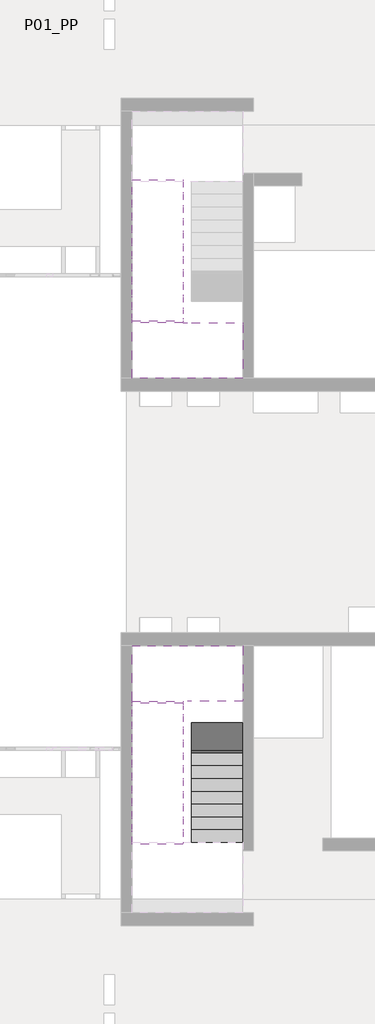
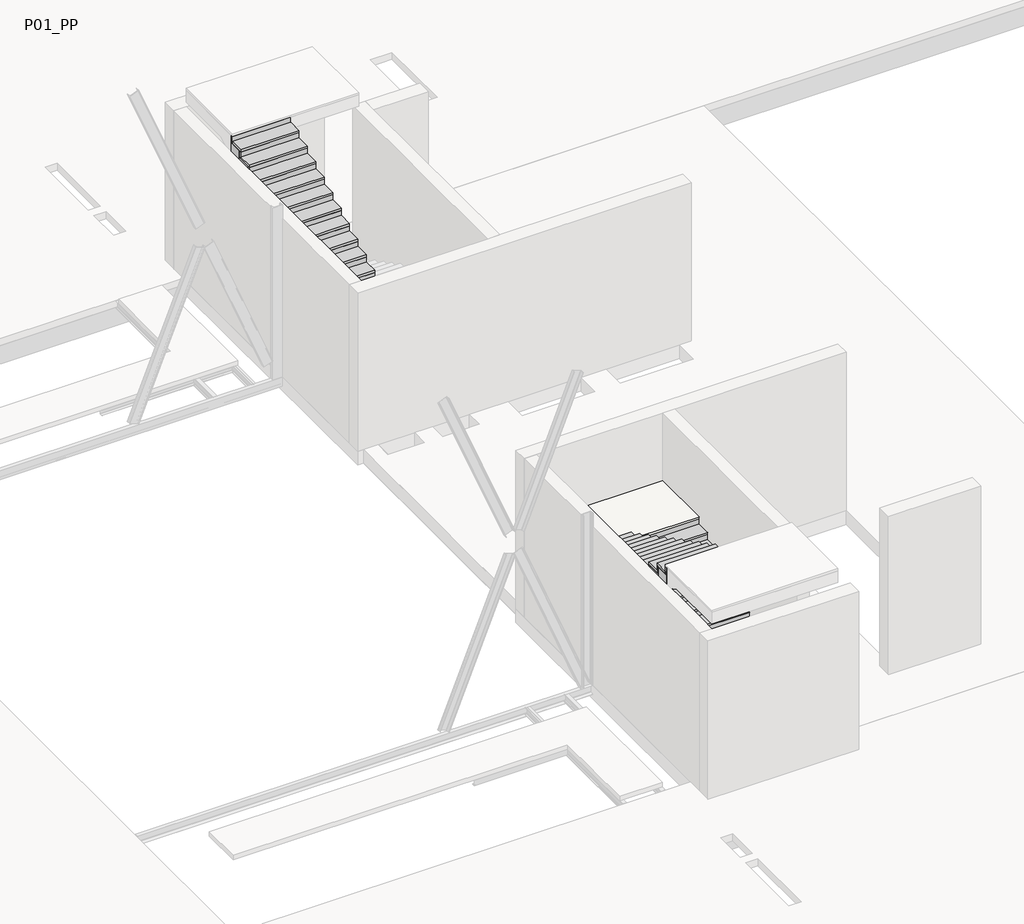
# One storey, part 7 of 8: 3 stair flights, 2 slabs.
"""IFC4 building model written with IfcOpenShell, lengths in millimetres."""

from ifc_helpers import new_model, si_unit, frame, origin, place, context, project, spatial, polyline, outline, extrude, faceted_brep, element, save

model = new_model("IFC4")

# Units and contexts
model_context = context("Model", 3, world=origin())
ifc_project = project(units=[si_unit("LENGTHUNIT", "METRE", prefix="MILLI")], contexts=[model_context])

# Site, building, storey
site = spatial("IfcSite", under=ifc_project)
building = spatial("IfcBuilding", under=site)
storey = spatial("IfcBuildingStorey", under=building, Name="P01_PP", Elevation=11160.0)

# Slabs
placement = place(None, origin())
element("IfcSlab", 1, ObjectType="250mm_Thickness", at=placement, inside=storey, context=model_context, shape_type="SolidModel", body=[
    faceted_brep([(-10790.2146087, 8864.8932827, 13085.0), (-11990.2146087, 8864.8932827, 13085.0), (-11990.2146087, 8914.8932827, 13085.0), (-12190.3216429, 8914.8932827, 13085.0), (-12190.3216429, 8964.8932827, 13085.0), (-13390.3216429, 8964.8932827, 13085.0), (-13390.3216429, 8914.8932827, 13085.0), (-13390.3216429, 7614.8960687, 13085.0), (-10790.2146087, 7614.8960687, 13085.0), (-10790.2146087, 8503.6909176, 13085.0), (-10790.2146087, 8864.8932827, 12928.75), (-10790.2146087, 8864.8932827, 12646.8737682), (-11990.2146087, 8864.8932827, 12646.8737682), (-11990.2146087, 8864.8932827, 12835.0), (-11990.2146087, 8864.8932827, 12928.75), (-11990.2146087, 8914.8932827, 12835.0), (-12190.3216429, 8914.8932827, 12835.0), (-12190.3216429, 8964.8932827, 12835.0), (-13390.3216429, 8964.8932827, 12835.0), (-13390.3216429, 8914.8932827, 12835.0), (-13390.3216429, 7614.8960687, 12835.0), (-10790.2146087, 7614.8960687, 12835.0), (-10790.2146087, 8503.6909176, 12835.0), (-11990.2146087, 8503.6909176, 12835.0)], [[[0, 1, 2, 3, 4, 5, 6, 7, 8, 9]], [[1, 0, 10, 11, 12, 13, 14]], [[2, 1, 14, 13, 15]], [[3, 2, 15, 16]], [[4, 3, 16, 17]], [[5, 4, 17, 18]], [[6, 5, 18, 19]], [[7, 6, 19, 20]], [[8, 7, 20, 21]], [[11, 10, 0, 9, 8, 21, 22]], [[23, 22, 21, 20, 19, 18, 17, 16, 15, 13]], [[22, 23, 12, 11]], [[23, 13, 12]]]),
    extrude(outline(polyline([(-10790.2146087, 8914.8932827), (-10790.2146087, 7614.8960687), (-13390.3216429, 7614.8960687), (-13390.3216429, 8914.8932827), (-12190.3216429, 8914.8932827), (-11990.2146087, 8914.8932827), (-10790.2146087, 8914.8932827)])), frame((0.0, 0.0, 13085.0), z_axis=(0.0, 0.0, 1.0), x_axis=(1.0, 0.0, 0.0)), (0.0, 0.0, 1.0), 50.0),
])
element("IfcSlab", 2, ObjectType="250mm_Thickness", at=placement, inside=storey, context=model_context, shape_type="SolidModel", body=[
    faceted_brep([(-11990.2146087, 64.8988538, 13085.0), (-11990.2146087, 114.8988538, 13085.0), (-10790.2146087, 114.8988538, 13085.0), (-10790.2146087, 476.1012189, 13085.0), (-10790.2146087, 1364.8960678, 13085.0), (-13390.3216429, 1364.8960678, 13085.0), (-13390.3216429, 64.8988538, 13085.0), (-13390.3216429, 14.8988538, 13085.0), (-12190.3216429, 14.8988538, 13085.0), (-12190.3216429, 64.8988538, 13085.0), (-11990.2146087, 114.8988538, 12928.75), (-11990.2146087, 114.8988538, 12835.0), (-11990.2146087, 114.8988538, 12646.8737682), (-10790.2146087, 114.8988538, 12646.8737682), (-10790.2146087, 114.8988538, 12928.75), (-12190.3216429, 64.8988538, 12835.0), (-11990.2146087, 64.8988538, 12835.0), (-13390.3216429, 14.8988538, 12835.0), (-12190.3216429, 14.8988538, 12835.0), (-13390.3216429, 64.8988538, 12835.0), (-13390.3216429, 1364.8960678, 12835.0), (-10790.2146087, 1364.8960678, 12835.0), (-10790.2146087, 476.1012189, 12835.0), (-11990.2146087, 476.1012189, 12835.0)], [[[0, 1, 2, 3, 4, 5, 6, 7, 8, 9]], [[2, 1, 10, 11, 12, 13, 14]], [[0, 9, 15, 16]], [[8, 7, 17, 18]], [[7, 6, 19, 17]], [[6, 5, 20, 19]], [[5, 4, 21, 20]], [[2, 14, 13, 22, 21, 4, 3]], [[22, 23, 11, 16, 15, 18, 17, 19, 20, 21]], [[23, 22, 13, 12]], [[11, 23, 12]], [[1, 0, 16, 11, 10]], [[9, 8, 18, 15]]]),
    extrude(outline(polyline([(-11990.2146087, 64.8988538), (-12190.3216429, 64.8988538), (-13390.3216429, 64.8988538), (-13390.3216429, 1364.8960678), (-10790.2146087, 1364.8960678), (-10790.2146087, 64.8988538), (-11990.2146087, 64.8988538)])), frame((0.0, 0.0, 13085.0), z_axis=(0.0, 0.0, 1.0), x_axis=(1.0, 0.0, 0.0)), (0.0, 0.0, 1.0), 50.0),
])

# Stair flights
element("IfcStairFlight", 3, ObjectType="250mm Depth", at=placement, inside=storey, context=model_context, shape_type="SolidModel", body=[
    faceted_brep([(-13390.3216429, 8964.8932827, 13241.25), (-12190.3216429, 8964.8932827, 13241.25), (-12190.3216429, 9026.0956478, 13241.25), (-12190.3216429, 9264.8932827, 13241.25), (-13390.3216429, 9264.8932827, 13241.25), (-13390.3216429, 9026.0956478, 13241.25), (-13390.3216429, 9264.8932827, 12959.3737682), (-13390.3216429, 9026.0956478, 12835.0), (-13390.3216429, 8964.8932827, 12835.0), (-13390.3216429, 8964.8932827, 13085.0), (-12190.3216429, 8964.8932827, 12835.0), (-12190.3216429, 8964.8932827, 13085.0), (-12190.3216429, 9026.0956478, 12835.0), (-12190.3216429, 9264.8932827, 12959.3737682), (-13390.3216429, 9564.8932827, 13397.5), (-13390.3216429, 9264.8932827, 13397.5), (-12190.3216429, 9264.8932827, 13397.5), (-12190.3216429, 9564.8932827, 13397.5), (-13390.3216429, 9564.8932827, 13115.6237682), (-12190.3216429, 9564.8932827, 13115.6237682), (-13390.3216429, 9864.8932827, 13553.75), (-13390.3216429, 9564.8932827, 13553.75), (-12190.3216429, 9564.8932827, 13553.75), (-12190.3216429, 9864.8932827, 13553.75), (-13390.3216429, 9864.8932827, 13271.8737682), (-12190.3216429, 9864.8932827, 13271.8737682), (-13390.3216429, 10164.8932827, 13710.0), (-13390.3216429, 9864.8932827, 13710.0), (-12190.3216429, 9864.8932827, 13710.0), (-12190.3216429, 10164.8932827, 13710.0), (-13390.3216429, 10164.8932827, 13428.1237682), (-12190.3216429, 10164.8932827, 13428.1237682), (-13390.3216429, 10464.8932827, 13866.25), (-13390.3216429, 10164.8932827, 13866.25), (-12190.3216429, 10164.8932827, 13866.25), (-12190.3216429, 10464.8932827, 13866.25), (-13390.3216429, 10464.8932827, 13584.3737682), (-12190.3216429, 10464.8932827, 13584.3737682), (-13390.3216429, 10764.8932827, 14022.5), (-13390.3216429, 10464.8932827, 14022.5), (-12190.3216429, 10464.8932827, 14022.5), (-12190.3216429, 10764.8932827, 14022.5), (-13390.3216429, 10764.8932827, 13740.6237682), (-12190.3216429, 10764.8932827, 13740.6237682), (-13390.3216429, 11064.8932827, 14178.75), (-13390.3216429, 10764.8932827, 14178.75), (-12190.3216429, 10764.8932827, 14178.75), (-12190.3216429, 11064.8932827, 14178.75), (-13390.3216429, 11064.8932827, 13896.8737682), (-12190.3216429, 11064.8932827, 13896.8737682), (-13390.3216429, 11364.8932827, 14335.0), (-13390.3216429, 11064.8932827, 14335.0), (-12190.3216429, 11064.8932827, 14335.0), (-12190.3216429, 11364.8932827, 14335.0), (-13390.3216429, 11364.8932827, 14053.1237682), (-12190.3216429, 11364.8932827, 14053.1237682), (-13390.3216429, 11664.8932827, 14491.25), (-13390.3216429, 11364.8932827, 14491.25), (-12190.3216429, 11364.8932827, 14491.25), (-12190.3216429, 11664.8932827, 14491.25), (-13390.3216429, 11664.8932827, 14209.3737682), (-12190.3216429, 11664.8932827, 14209.3737682), (-13390.3216429, 11964.8932827, 14647.5), (-13390.3216429, 11664.8932827, 14647.5), (-12190.3216429, 11664.8932827, 14647.5), (-12190.3216429, 11964.8932827, 14647.5), (-13390.3216429, 11964.8932827, 14365.6237682), (-12190.3216429, 11964.8932827, 14365.6237682), (-13390.3216429, 11964.8932827, 14803.75), (-12190.3216429, 11964.8932827, 14803.75), (-12190.3216429, 12214.8932827, 14803.75), (-12190.3216429, 12264.8932827, 14803.75), (-13390.3216429, 12264.8932827, 14803.75), (-13390.3216429, 12214.8932827, 14803.75), (-13390.3216429, 12264.8932827, 14521.8737682), (-13390.3216429, 12214.8932827, 14495.8321015), (-12190.3216429, 12264.8932827, 14521.8737682), (-12190.3216429, 12264.8932827, 14710.0)], [[[0, 1, 2, 3, 4, 5]], [[4, 6, 7, 8, 9, 0, 5]], [[1, 0, 9, 8, 10, 11]], [[1, 11, 10, 12, 13, 3, 2]], [[14, 15, 16, 17]], [[15, 14, 18, 6, 4]], [[16, 15, 4, 3]], [[17, 16, 3, 13, 19]], [[20, 21, 22, 23]], [[21, 20, 24, 18, 14]], [[22, 21, 14, 17]], [[23, 22, 17, 19, 25]], [[26, 27, 28, 29]], [[27, 26, 30, 24, 20]], [[28, 27, 20, 23]], [[29, 28, 23, 25, 31]], [[32, 33, 34, 35]], [[33, 32, 36, 30, 26]], [[34, 33, 26, 29]], [[35, 34, 29, 31, 37]], [[38, 39, 40, 41]], [[39, 38, 42, 36, 32]], [[40, 39, 32, 35]], [[41, 40, 35, 37, 43]], [[44, 45, 46, 47]], [[45, 44, 48, 42, 38]], [[46, 45, 38, 41]], [[47, 46, 41, 43, 49]], [[50, 51, 52, 53]], [[51, 50, 54, 48, 44]], [[52, 51, 44, 47]], [[53, 52, 47, 49, 55]], [[56, 57, 58, 59]], [[57, 56, 60, 54, 50]], [[58, 57, 50, 53]], [[59, 58, 53, 55, 61]], [[62, 63, 64, 65]], [[63, 62, 66, 60, 56]], [[64, 63, 56, 59]], [[65, 64, 59, 61, 67]], [[68, 69, 70, 71, 72, 73]], [[62, 68, 73, 72, 74, 75, 66]], [[69, 68, 62, 65]], [[69, 65, 67, 76, 77, 71, 70]], [[72, 71, 77, 76, 74]], [[12, 7, 6, 18, 24, 30, 36, 42, 48, 54, 60, 66, 75, 74, 76, 67, 61, 55, 49, 43, 37, 31, 25, 19, 13]], [[7, 12, 10, 8]]]),
    extrude(outline(polyline([(-12190.3216429, 8964.8932827), (-12190.3216429, 8914.8932827), (-13390.3216429, 8914.8932827), (-13390.3216429, 8964.8932827), (-12190.3216429, 8964.8932827)])), frame((0.0, 0.0, 13085.0), z_axis=(0.0, 0.0, 1.0), x_axis=(1.0, 0.0, 0.0)), (0.0, 0.0, 1.0), 156.25),
    extrude(outline(polyline([(-13390.3216429, 9214.8932827), (-12190.3216429, 9214.8932827), (-12190.3216429, 8914.8932827), (-13390.3216429, 8914.8932827), (-13390.3216429, 9214.8932827)])), frame((0.0, 0.0, 13241.25), z_axis=(0.0, 0.0, 1.0), x_axis=(1.0, 0.0, 0.0)), (0.0, 0.0, 1.0), 50.0),
    extrude(outline(polyline([(-12190.3216429, 9264.8932827), (-12190.3216429, 9214.8932827), (-13390.3216429, 9214.8932827), (-13390.3216429, 9264.8932827), (-12190.3216429, 9264.8932827)])), frame((0.0, 0.0, 13241.25), z_axis=(0.0, 0.0, 1.0), x_axis=(1.0, 0.0, 0.0)), (0.0, 0.0, 1.0), 156.25),
    extrude(outline(polyline([(-13390.3216429, 9514.8932827), (-12190.3216429, 9514.8932827), (-12190.3216429, 9214.8932827), (-13390.3216429, 9214.8932827), (-13390.3216429, 9514.8932827)])), frame((0.0, 0.0, 13397.5), z_axis=(0.0, 0.0, 1.0), x_axis=(1.0, 0.0, 0.0)), (0.0, 0.0, 1.0), 50.0),
    extrude(outline(polyline([(-12190.3216429, 9564.8932827), (-12190.3216429, 9514.8932827), (-13390.3216429, 9514.8932827), (-13390.3216429, 9564.8932827), (-12190.3216429, 9564.8932827)])), frame((0.0, 0.0, 13397.5), z_axis=(0.0, 0.0, 1.0), x_axis=(1.0, 0.0, 0.0)), (0.0, 0.0, 1.0), 156.25),
    extrude(outline(polyline([(-13390.3216429, 9814.8932827), (-12190.3216429, 9814.8932827), (-12190.3216429, 9514.8932827), (-13390.3216429, 9514.8932827), (-13390.3216429, 9814.8932827)])), frame((0.0, 0.0, 13553.75), z_axis=(0.0, 0.0, 1.0), x_axis=(1.0, 0.0, 0.0)), (0.0, 0.0, 1.0), 50.0),
    extrude(outline(polyline([(-12190.3216429, 9864.8932827), (-12190.3216429, 9814.8932827), (-13390.3216429, 9814.8932827), (-13390.3216429, 9864.8932827), (-12190.3216429, 9864.8932827)])), frame((0.0, 0.0, 13553.75), z_axis=(0.0, 0.0, 1.0), x_axis=(1.0, 0.0, 0.0)), (0.0, 0.0, 1.0), 156.25),
    extrude(outline(polyline([(-13390.3216429, 10114.8932827), (-12190.3216429, 10114.8932827), (-12190.3216429, 9814.8932827), (-13390.3216429, 9814.8932827), (-13390.3216429, 10114.8932827)])), frame((0.0, 0.0, 13710.0), z_axis=(0.0, 0.0, 1.0), x_axis=(1.0, 0.0, 0.0)), (0.0, 0.0, 1.0), 50.0),
    extrude(outline(polyline([(-12190.3216429, 10164.8932827), (-12190.3216429, 10114.8932827), (-13390.3216429, 10114.8932827), (-13390.3216429, 10164.8932827), (-12190.3216429, 10164.8932827)])), frame((0.0, 0.0, 13710.0), z_axis=(0.0, 0.0, 1.0), x_axis=(1.0, 0.0, 0.0)), (0.0, 0.0, 1.0), 156.25),
    extrude(outline(polyline([(-13390.3216429, 10414.8932827), (-12190.3216429, 10414.8932827), (-12190.3216429, 10114.8932827), (-13390.3216429, 10114.8932827), (-13390.3216429, 10414.8932827)])), frame((0.0, 0.0, 13866.25), z_axis=(0.0, 0.0, 1.0), x_axis=(1.0, 0.0, 0.0)), (0.0, 0.0, 1.0), 50.0),
    extrude(outline(polyline([(-12190.3216429, 10464.8932827), (-12190.3216429, 10414.8932827), (-13390.3216429, 10414.8932827), (-13390.3216429, 10464.8932827), (-12190.3216429, 10464.8932827)])), frame((0.0, 0.0, 13866.25), z_axis=(0.0, 0.0, 1.0), x_axis=(1.0, 0.0, 0.0)), (0.0, 0.0, 1.0), 156.25),
    extrude(outline(polyline([(-13390.3216429, 10714.8932827), (-12190.3216429, 10714.8932827), (-12190.3216429, 10414.8932827), (-13390.3216429, 10414.8932827), (-13390.3216429, 10714.8932827)])), frame((0.0, 0.0, 14022.5), z_axis=(0.0, 0.0, 1.0), x_axis=(1.0, 0.0, 0.0)), (0.0, 0.0, 1.0), 50.0),
    extrude(outline(polyline([(-12190.3216429, 10764.8932827), (-12190.3216429, 10714.8932827), (-13390.3216429, 10714.8932827), (-13390.3216429, 10764.8932827), (-12190.3216429, 10764.8932827)])), frame((0.0, 0.0, 14022.5), z_axis=(0.0, 0.0, 1.0), x_axis=(1.0, 0.0, 0.0)), (0.0, 0.0, 1.0), 156.25),
    extrude(outline(polyline([(-13390.3216429, 11014.8932827), (-12190.3216429, 11014.8932827), (-12190.3216429, 10714.8932827), (-13390.3216429, 10714.8932827), (-13390.3216429, 11014.8932827)])), frame((0.0, 0.0, 14178.75), z_axis=(0.0, 0.0, 1.0), x_axis=(1.0, 0.0, 0.0)), (0.0, 0.0, 1.0), 50.0),
    extrude(outline(polyline([(-12190.3216429, 11064.8932827), (-12190.3216429, 11014.8932827), (-13390.3216429, 11014.8932827), (-13390.3216429, 11064.8932827), (-12190.3216429, 11064.8932827)])), frame((0.0, 0.0, 14178.75), z_axis=(0.0, 0.0, 1.0), x_axis=(1.0, 0.0, 0.0)), (0.0, 0.0, 1.0), 156.25),
    extrude(outline(polyline([(-13390.3216429, 11314.8932827), (-12190.3216429, 11314.8932827), (-12190.3216429, 11014.8932827), (-13390.3216429, 11014.8932827), (-13390.3216429, 11314.8932827)])), frame((0.0, 0.0, 14335.0), z_axis=(0.0, 0.0, 1.0), x_axis=(1.0, 0.0, 0.0)), (0.0, 0.0, 1.0), 50.0),
    extrude(outline(polyline([(-12190.3216429, 11364.8932827), (-12190.3216429, 11314.8932827), (-13390.3216429, 11314.8932827), (-13390.3216429, 11364.8932827), (-12190.3216429, 11364.8932827)])), frame((0.0, 0.0, 14335.0), z_axis=(0.0, 0.0, 1.0), x_axis=(1.0, 0.0, 0.0)), (0.0, 0.0, 1.0), 156.25),
    extrude(outline(polyline([(-13390.3216429, 11614.8932827), (-12190.3216429, 11614.8932827), (-12190.3216429, 11314.8932827), (-13390.3216429, 11314.8932827), (-13390.3216429, 11614.8932827)])), frame((0.0, 0.0, 14491.25), z_axis=(0.0, 0.0, 1.0), x_axis=(1.0, 0.0, 0.0)), (0.0, 0.0, 1.0), 50.0),
    extrude(outline(polyline([(-12190.3216429, 11664.8932827), (-12190.3216429, 11614.8932827), (-13390.3216429, 11614.8932827), (-13390.3216429, 11664.8932827), (-12190.3216429, 11664.8932827)])), frame((0.0, 0.0, 14491.25), z_axis=(0.0, 0.0, 1.0), x_axis=(1.0, 0.0, 0.0)), (0.0, 0.0, 1.0), 156.25),
    extrude(outline(polyline([(-13390.3216429, 11914.8932827), (-12190.3216429, 11914.8932827), (-12190.3216429, 11614.8932827), (-13390.3216429, 11614.8932827), (-13390.3216429, 11914.8932827)])), frame((0.0, 0.0, 14647.5), z_axis=(0.0, 0.0, 1.0), x_axis=(1.0, 0.0, 0.0)), (0.0, 0.0, 1.0), 50.0),
    extrude(outline(polyline([(-12190.3216429, 11964.8932827), (-12190.3216429, 11914.8932827), (-13390.3216429, 11914.8932827), (-13390.3216429, 11964.8932827), (-12190.3216429, 11964.8932827)])), frame((0.0, 0.0, 14647.5), z_axis=(0.0, 0.0, 1.0), x_axis=(1.0, 0.0, 0.0)), (0.0, 0.0, 1.0), 156.25),
    extrude(outline(polyline([(-12190.3216429, 12264.8932827), (-12190.3216429, 12214.8932827), (-13390.3216429, 12214.8932827), (-13390.3216429, 12264.8932827), (-12190.3216429, 12264.8932827)])), frame((0.0, 0.0, 14803.75), z_axis=(0.0, 0.0, 1.0), x_axis=(1.0, 0.0, 0.0)), (0.0, 0.0, 1.0), 156.25),
    extrude(outline(polyline([(-13390.3216429, 12214.8932827), (-12190.3216429, 12214.8932827), (-12190.3216429, 11914.8932827), (-13390.3216429, 11914.8932827), (-13390.3216429, 12214.8932827)])), frame((0.0, 0.0, 14803.75), z_axis=(0.0, 0.0, 1.0), x_axis=(1.0, 0.0, 0.0)), (0.0, 0.0, 1.0), 50.0),
])
element("IfcStairFlight", 4, ObjectType="250mm Depth", at=placement, inside=storey, context=model_context, shape_type="SolidModel", body=[
    faceted_brep([(-11990.2146087, -2885.1011462, 11366.25), (-11990.2146087, -3185.1011462, 11366.25), (-10790.2146087, -3185.1011462, 11366.25), (-10790.2146087, -2885.1011462, 11366.25), (-10790.2146087, -3185.1011462, 11260.0), (-10790.2146087, -2885.1011462, 11260.0), (-11990.2146087, -3185.1011462, 11260.0), (-11990.2146087, -2885.1011462, 11260.0), (-11990.2146087, -2585.1011462, 11522.5), (-11990.2146087, -2885.1011462, 11522.5), (-10790.2146087, -2885.1011462, 11522.5), (-10790.2146087, -2585.1011462, 11522.5), (-10790.2146087, -2585.1011462, 11260.0), (-11990.2146087, -2585.1011462, 11260.0), (-11990.2146087, -2285.1011462, 11678.75), (-11990.2146087, -2585.1011462, 11678.75), (-10790.2146087, -2585.1011462, 11678.75), (-10790.2146087, -2285.1011462, 11678.75), (-10790.2146087, -2547.8987811, 11260.0), (-10790.2146087, -2285.1011462, 11396.8737682), (-11990.2146087, -2285.1011462, 11396.8737682), (-11990.2146087, -2547.8987811, 11260.0), (-11990.2146087, -1985.1011462, 11835.0), (-11990.2146087, -2285.1011462, 11835.0), (-10790.2146087, -2285.1011462, 11835.0), (-10790.2146087, -1985.1011462, 11835.0), (-10790.2146087, -1985.1011462, 11553.1237682), (-11990.2146087, -1985.1011462, 11553.1237682), (-11990.2146087, -1685.1011462, 11991.25), (-11990.2146087, -1985.1011462, 11991.25), (-10790.2146087, -1985.1011462, 11991.25), (-10790.2146087, -1685.1011462, 11991.25), (-10790.2146087, -1685.1011462, 11709.3737682), (-11990.2146087, -1685.1011462, 11709.3737682), (-11990.2146087, -1385.1011462, 12147.5), (-11990.2146087, -1685.1011462, 12147.5), (-10790.2146087, -1685.1011462, 12147.5), (-10790.2146087, -1385.1011462, 12147.5), (-10790.2146087, -1385.1011462, 11865.6237682), (-11990.2146087, -1385.1011462, 11865.6237682), (-11990.2146087, -1085.1011462, 12303.75), (-11990.2146087, -1385.1011462, 12303.75), (-10790.2146087, -1385.1011462, 12303.75), (-10790.2146087, -1085.1011462, 12303.75), (-10790.2146087, -1085.1011462, 12021.8737682), (-11990.2146087, -1085.1011462, 12021.8737682), (-11990.2146087, -785.1011462, 12460.0), (-11990.2146087, -1085.1011462, 12460.0), (-10790.2146087, -1085.1011462, 12460.0), (-10790.2146087, -785.1011462, 12460.0), (-10790.2146087, -785.1011462, 12178.1237682), (-11990.2146087, -785.1011462, 12178.1237682), (-11990.2146087, -485.1011462, 12616.25), (-11990.2146087, -785.1011462, 12616.25), (-10790.2146087, -785.1011462, 12616.25), (-10790.2146087, -485.1011462, 12616.25), (-10790.2146087, -485.1011462, 12334.3737682), (-11990.2146087, -485.1011462, 12334.3737682), (-11990.2146087, -185.1011462, 12772.5), (-11990.2146087, -485.1011462, 12772.5), (-10790.2146087, -485.1011462, 12772.5), (-10790.2146087, -185.1011462, 12772.5), (-10790.2146087, -185.1011462, 12490.6237682), (-11990.2146087, -185.1011462, 12490.6237682), (-11990.2146087, -185.1011462, 12928.75), (-10790.2146087, -185.1011462, 12928.75), (-10790.2146087, 114.8988538, 12928.75), (-11990.2146087, 114.8988538, 12928.75), (-11990.2146087, 64.8988538, 12928.75), (-10790.2146087, 114.8988538, 12646.8737682), (-11990.2146087, 114.8988538, 12835.0), (-11990.2146087, 114.8988538, 12646.8737682)], [[[0, 1, 2, 3]], [[3, 2, 4, 5]], [[2, 1, 6, 4]], [[1, 0, 7, 6]], [[8, 9, 10, 11]], [[3, 5, 12, 11, 10]], [[0, 3, 10, 9]], [[7, 0, 9, 8, 13]], [[14, 15, 16, 17]], [[11, 12, 18, 19, 17, 16]], [[8, 11, 16, 15]], [[13, 8, 15, 14, 20, 21]], [[22, 23, 24, 25]], [[25, 24, 17, 19, 26]], [[14, 17, 24, 23]], [[23, 22, 27, 20, 14]], [[28, 29, 30, 31]], [[31, 30, 25, 26, 32]], [[22, 25, 30, 29]], [[29, 28, 33, 27, 22]], [[34, 35, 36, 37]], [[37, 36, 31, 32, 38]], [[28, 31, 36, 35]], [[35, 34, 39, 33, 28]], [[40, 41, 42, 43]], [[43, 42, 37, 38, 44]], [[34, 37, 42, 41]], [[41, 40, 45, 39, 34]], [[46, 47, 48, 49]], [[49, 48, 43, 44, 50]], [[40, 43, 48, 47]], [[47, 46, 51, 45, 40]], [[52, 53, 54, 55]], [[55, 54, 49, 50, 56]], [[46, 49, 54, 53]], [[53, 52, 57, 51, 46]], [[58, 59, 60, 61]], [[61, 60, 55, 56, 62]], [[52, 55, 60, 59]], [[59, 58, 63, 57, 52]], [[64, 65, 66, 67, 68]], [[66, 65, 61, 62, 69]], [[58, 61, 65, 64]], [[58, 64, 68, 67, 70, 71, 63]], [[67, 66, 69, 71, 70]], [[6, 7, 13, 21, 18, 12, 5, 4]], [[18, 21, 20, 27, 33, 39, 45, 51, 57, 63, 71, 69, 62, 56, 50, 44, 38, 32, 26, 19]]]),
    extrude(outline(polyline([(-10790.2146087, -3185.1011462), (-10790.2146087, -3235.1011462), (-11990.2146087, -3235.1011462), (-11990.2146087, -3185.1011462), (-10790.2146087, -3185.1011462)])), frame((0.0, 0.0, 11260.0), z_axis=(0.0, 0.0, 1.0), x_axis=(1.0, 0.0, 0.0)), (0.0, 0.0, 1.0), 106.25),
    extrude(outline(polyline([(-11990.2146087, -2935.1011462), (-10790.2146087, -2935.1011462), (-10790.2146087, -3235.1011462), (-11990.2146087, -3235.1011462), (-11990.2146087, -2935.1011462)])), frame((0.0, 0.0, 11366.25), z_axis=(0.0, 0.0, 1.0), x_axis=(1.0, 0.0, 0.0)), (0.0, 0.0, 1.0), 50.0),
    extrude(outline(polyline([(-10790.2146087, -2885.1011462), (-10790.2146087, -2935.1011462), (-11990.2146087, -2935.1011462), (-11990.2146087, -2885.1011462), (-10790.2146087, -2885.1011462)])), frame((0.0, 0.0, 11366.25), z_axis=(0.0, 0.0, 1.0), x_axis=(1.0, 0.0, 0.0)), (0.0, 0.0, 1.0), 156.25),
    extrude(outline(polyline([(-11990.2146087, -2635.1011462), (-10790.2146087, -2635.1011462), (-10790.2146087, -2935.1011462), (-11990.2146087, -2935.1011462), (-11990.2146087, -2635.1011462)])), frame((0.0, 0.0, 11522.5), z_axis=(0.0, 0.0, 1.0), x_axis=(1.0, 0.0, 0.0)), (0.0, 0.0, 1.0), 50.0),
    extrude(outline(polyline([(-10790.2146087, -2585.1011462), (-10790.2146087, -2635.1011462), (-11990.2146087, -2635.1011462), (-11990.2146087, -2585.1011462), (-10790.2146087, -2585.1011462)])), frame((0.0, 0.0, 11522.5), z_axis=(0.0, 0.0, 1.0), x_axis=(1.0, 0.0, 0.0)), (0.0, 0.0, 1.0), 156.25),
    extrude(outline(polyline([(-11990.2146087, -2335.1011462), (-10790.2146087, -2335.1011462), (-10790.2146087, -2635.1011462), (-11990.2146087, -2635.1011462), (-11990.2146087, -2335.1011462)])), frame((0.0, 0.0, 11678.75), z_axis=(0.0, 0.0, 1.0), x_axis=(1.0, 0.0, 0.0)), (0.0, 0.0, 1.0), 50.0),
    extrude(outline(polyline([(-10790.2146087, -2285.1011462), (-10790.2146087, -2335.1011462), (-11990.2146087, -2335.1011462), (-11990.2146087, -2285.1011462), (-10790.2146087, -2285.1011462)])), frame((0.0, 0.0, 11678.75), z_axis=(0.0, 0.0, 1.0), x_axis=(1.0, 0.0, 0.0)), (0.0, 0.0, 1.0), 156.25),
    extrude(outline(polyline([(-11990.2146087, -2035.1011462), (-10790.2146087, -2035.1011462), (-10790.2146087, -2335.1011462), (-11990.2146087, -2335.1011462), (-11990.2146087, -2035.1011462)])), frame((0.0, 0.0, 11835.0), z_axis=(0.0, 0.0, 1.0), x_axis=(1.0, 0.0, 0.0)), (0.0, 0.0, 1.0), 50.0),
    extrude(outline(polyline([(-10790.2146087, -1985.1011462), (-10790.2146087, -2035.1011462), (-11990.2146087, -2035.1011462), (-11990.2146087, -1985.1011462), (-10790.2146087, -1985.1011462)])), frame((0.0, 0.0, 11835.0), z_axis=(0.0, 0.0, 1.0), x_axis=(1.0, 0.0, 0.0)), (0.0, 0.0, 1.0), 156.25),
    extrude(outline(polyline([(-11990.2146087, -1735.1011462), (-10790.2146087, -1735.1011462), (-10790.2146087, -2035.1011462), (-11990.2146087, -2035.1011462), (-11990.2146087, -1735.1011462)])), frame((0.0, 0.0, 11991.25), z_axis=(0.0, 0.0, 1.0), x_axis=(1.0, 0.0, 0.0)), (0.0, 0.0, 1.0), 50.0),
    extrude(outline(polyline([(-10790.2146087, -1685.1011462), (-10790.2146087, -1735.1011462), (-11990.2146087, -1735.1011462), (-11990.2146087, -1685.1011462), (-10790.2146087, -1685.1011462)])), frame((0.0, 0.0, 11991.25), z_axis=(0.0, 0.0, 1.0), x_axis=(1.0, 0.0, 0.0)), (0.0, 0.0, 1.0), 156.25),
    extrude(outline(polyline([(-11990.2146087, -1435.1011462), (-10790.2146087, -1435.1011462), (-10790.2146087, -1735.1011462), (-11990.2146087, -1735.1011462), (-11990.2146087, -1435.1011462)])), frame((0.0, 0.0, 12147.5), z_axis=(0.0, 0.0, 1.0), x_axis=(1.0, 0.0, 0.0)), (0.0, 0.0, 1.0), 50.0),
    extrude(outline(polyline([(-10790.2146087, -1385.1011462), (-10790.2146087, -1435.1011462), (-11990.2146087, -1435.1011462), (-11990.2146087, -1385.1011462), (-10790.2146087, -1385.1011462)])), frame((0.0, 0.0, 12147.5), z_axis=(0.0, 0.0, 1.0), x_axis=(1.0, 0.0, 0.0)), (0.0, 0.0, 1.0), 156.25),
    extrude(outline(polyline([(-11990.2146087, -1135.1011462), (-10790.2146087, -1135.1011462), (-10790.2146087, -1435.1011462), (-11990.2146087, -1435.1011462), (-11990.2146087, -1135.1011462)])), frame((0.0, 0.0, 12303.75), z_axis=(0.0, 0.0, 1.0), x_axis=(1.0, 0.0, 0.0)), (0.0, 0.0, 1.0), 50.0),
    extrude(outline(polyline([(-10790.2146087, -1085.1011462), (-10790.2146087, -1135.1011462), (-11990.2146087, -1135.1011462), (-11990.2146087, -1085.1011462), (-10790.2146087, -1085.1011462)])), frame((0.0, 0.0, 12303.75), z_axis=(0.0, 0.0, 1.0), x_axis=(1.0, 0.0, 0.0)), (0.0, 0.0, 1.0), 156.25),
    extrude(outline(polyline([(-11990.2146087, -835.1011462), (-10790.2146087, -835.1011462), (-10790.2146087, -1135.1011462), (-11990.2146087, -1135.1011462), (-11990.2146087, -835.1011462)])), frame((0.0, 0.0, 12460.0), z_axis=(0.0, 0.0, 1.0), x_axis=(1.0, 0.0, 0.0)), (0.0, 0.0, 1.0), 50.0),
    extrude(outline(polyline([(-10790.2146087, -785.1011462), (-10790.2146087, -835.1011462), (-11990.2146087, -835.1011462), (-11990.2146087, -785.1011462), (-10790.2146087, -785.1011462)])), frame((0.0, 0.0, 12460.0), z_axis=(0.0, 0.0, 1.0), x_axis=(1.0, 0.0, 0.0)), (0.0, 0.0, 1.0), 156.25),
    extrude(outline(polyline([(-11990.2146087, -535.1011462), (-10790.2146087, -535.1011462), (-10790.2146087, -835.1011462), (-11990.2146087, -835.1011462), (-11990.2146087, -535.1011462)])), frame((0.0, 0.0, 12616.25), z_axis=(0.0, 0.0, 1.0), x_axis=(1.0, 0.0, 0.0)), (0.0, 0.0, 1.0), 50.0),
    extrude(outline(polyline([(-10790.2146087, -485.1011462), (-10790.2146087, -535.1011462), (-11990.2146087, -535.1011462), (-11990.2146087, -485.1011462), (-10790.2146087, -485.1011462)])), frame((0.0, 0.0, 12616.25), z_axis=(0.0, 0.0, 1.0), x_axis=(1.0, 0.0, 0.0)), (0.0, 0.0, 1.0), 156.25),
    extrude(outline(polyline([(-11990.2146087, -235.1011462), (-10790.2146087, -235.1011462), (-10790.2146087, -535.1011462), (-11990.2146087, -535.1011462), (-11990.2146087, -235.1011462)])), frame((0.0, 0.0, 12772.5), z_axis=(0.0, 0.0, 1.0), x_axis=(1.0, 0.0, 0.0)), (0.0, 0.0, 1.0), 50.0),
    extrude(outline(polyline([(-10790.2146087, -185.1011462), (-10790.2146087, -235.1011462), (-11990.2146087, -235.1011462), (-11990.2146087, -185.1011462), (-10790.2146087, -185.1011462)])), frame((0.0, 0.0, 12772.5), z_axis=(0.0, 0.0, 1.0), x_axis=(1.0, 0.0, 0.0)), (0.0, 0.0, 1.0), 156.25),
    extrude(outline(polyline([(-10790.2146087, 114.8988538), (-10790.2146087, 64.8988538), (-11990.2146087, 64.8988538), (-11990.2146087, 114.8988538), (-10790.2146087, 114.8988538)])), frame((0.0, 0.0, 12928.75), z_axis=(0.0, 0.0, 1.0), x_axis=(1.0, 0.0, 0.0)), (0.0, 0.0, 1.0), 156.25),
    extrude(outline(polyline([(-11990.2146087, 64.8988538), (-10790.2146087, 64.8988538), (-10790.2146087, -235.1011462), (-11990.2146087, -235.1011462), (-11990.2146087, 64.8988538)])), frame((0.0, 0.0, 12928.75), z_axis=(0.0, 0.0, 1.0), x_axis=(1.0, 0.0, 0.0)), (0.0, 0.0, 1.0), 50.0),
])
element("IfcStairFlight", 5, ObjectType="250mm Depth", at=placement, inside=storey, context=model_context, shape_type="SolidModel", body=[
    faceted_brep([(-12190.3216429, 14.8988538, 13241.25), (-13390.3216429, 14.8988538, 13241.25), (-13390.3216429, -46.3035113, 13241.25), (-13390.3216429, -285.1011462, 13241.25), (-12190.3216429, -285.1011462, 13241.25), (-12190.3216429, -46.3035113, 13241.25), (-13390.3216429, 14.8988538, 13085.0), (-13390.3216429, 14.8988538, 12835.0), (-13390.3216429, -46.3035113, 12835.0), (-13390.3216429, -285.1011462, 12959.3737682), (-12190.3216429, 14.8988538, 13085.0), (-12190.3216429, 14.8988538, 12835.0), (-12190.3216429, -285.1011462, 12959.3737682), (-12190.3216429, -46.3035113, 12835.0), (-12190.3216429, -585.1011462, 13397.5), (-12190.3216429, -285.1011462, 13397.5), (-13390.3216429, -285.1011462, 13397.5), (-13390.3216429, -585.1011462, 13397.5), (-13390.3216429, -585.1011462, 13115.6237682), (-12190.3216429, -585.1011462, 13115.6237682), (-12190.3216429, -885.1011462, 13553.75), (-12190.3216429, -585.1011462, 13553.75), (-13390.3216429, -585.1011462, 13553.75), (-13390.3216429, -885.1011462, 13553.75), (-13390.3216429, -885.1011462, 13271.8737682), (-12190.3216429, -885.1011462, 13271.8737682), (-12190.3216429, -1185.1011462, 13710.0), (-12190.3216429, -885.1011462, 13710.0), (-13390.3216429, -885.1011462, 13710.0), (-13390.3216429, -1185.1011462, 13710.0), (-13390.3216429, -1185.1011462, 13428.1237682), (-12190.3216429, -1185.1011462, 13428.1237682), (-12190.3216429, -1485.1011462, 13866.25), (-12190.3216429, -1185.1011462, 13866.25), (-13390.3216429, -1185.1011462, 13866.25), (-13390.3216429, -1485.1011462, 13866.25), (-13390.3216429, -1485.1011462, 13584.3737682), (-12190.3216429, -1485.1011462, 13584.3737682), (-12190.3216429, -1785.1011462, 14022.5), (-12190.3216429, -1485.1011462, 14022.5), (-13390.3216429, -1485.1011462, 14022.5), (-13390.3216429, -1785.1011462, 14022.5), (-13390.3216429, -1785.1011462, 13740.6237682), (-12190.3216429, -1785.1011462, 13740.6237682), (-12190.3216429, -2085.1011462, 14178.75), (-12190.3216429, -1785.1011462, 14178.75), (-13390.3216429, -1785.1011462, 14178.75), (-13390.3216429, -2085.1011462, 14178.75), (-13390.3216429, -2085.1011462, 13896.8737682), (-12190.3216429, -2085.1011462, 13896.8737682), (-12190.3216429, -2385.1011462, 14335.0), (-12190.3216429, -2085.1011462, 14335.0), (-13390.3216429, -2085.1011462, 14335.0), (-13390.3216429, -2385.1011462, 14335.0), (-13390.3216429, -2385.1011462, 14053.1237682), (-12190.3216429, -2385.1011462, 14053.1237682), (-12190.3216429, -2685.1011462, 14491.25), (-12190.3216429, -2385.1011462, 14491.25), (-13390.3216429, -2385.1011462, 14491.25), (-13390.3216429, -2685.1011462, 14491.25), (-13390.3216429, -2685.1011462, 14209.3737682), (-12190.3216429, -2685.1011462, 14209.3737682), (-12190.3216429, -2985.1011462, 14647.5), (-12190.3216429, -2685.1011462, 14647.5), (-13390.3216429, -2685.1011462, 14647.5), (-13390.3216429, -2985.1011462, 14647.5), (-13390.3216429, -2985.1011462, 14365.6237682), (-12190.3216429, -2985.1011462, 14365.6237682), (-12190.3216429, -2985.1011462, 14803.75), (-13390.3216429, -2985.1011462, 14803.75), (-13390.3216429, -3285.1011462, 14803.75), (-12190.3216429, -3285.1011462, 14803.75), (-12190.3216429, -3235.1011462, 14803.75), (-13390.3216429, -3285.1011462, 14521.8737682), (-12190.3216429, -3285.1011462, 14710.0), (-12190.3216429, -3285.1011462, 14521.8737682)], [[[0, 1, 2, 3, 4, 5]], [[1, 6, 7, 8, 9, 3, 2]], [[1, 0, 10, 11, 7, 6]], [[4, 12, 13, 11, 10, 0, 5]], [[14, 15, 16, 17]], [[17, 16, 3, 9, 18]], [[16, 15, 4, 3]], [[15, 14, 19, 12, 4]], [[20, 21, 22, 23]], [[23, 22, 17, 18, 24]], [[22, 21, 14, 17]], [[21, 20, 25, 19, 14]], [[26, 27, 28, 29]], [[29, 28, 23, 24, 30]], [[28, 27, 20, 23]], [[27, 26, 31, 25, 20]], [[32, 33, 34, 35]], [[35, 34, 29, 30, 36]], [[34, 33, 26, 29]], [[33, 32, 37, 31, 26]], [[38, 39, 40, 41]], [[41, 40, 35, 36, 42]], [[40, 39, 32, 35]], [[39, 38, 43, 37, 32]], [[44, 45, 46, 47]], [[47, 46, 41, 42, 48]], [[46, 45, 38, 41]], [[45, 44, 49, 43, 38]], [[50, 51, 52, 53]], [[53, 52, 47, 48, 54]], [[52, 51, 44, 47]], [[51, 50, 55, 49, 44]], [[56, 57, 58, 59]], [[59, 58, 53, 54, 60]], [[58, 57, 50, 53]], [[57, 56, 61, 55, 50]], [[62, 63, 64, 65]], [[65, 64, 59, 60, 66]], [[64, 63, 56, 59]], [[63, 62, 67, 61, 56]], [[68, 69, 70, 71, 72]], [[70, 69, 65, 66, 73]], [[69, 68, 62, 65]], [[62, 68, 72, 71, 74, 75, 67]], [[71, 70, 73, 75, 74]], [[8, 13, 12, 19, 25, 31, 37, 43, 49, 55, 61, 67, 75, 73, 66, 60, 54, 48, 42, 36, 30, 24, 18, 9]], [[13, 8, 7, 11]]]),
    extrude(outline(polyline([(-13390.3216429, 14.8988538), (-13390.3216429, 64.8988538), (-12190.3216429, 64.8988538), (-12190.3216429, 14.8988538), (-13390.3216429, 14.8988538)])), frame((0.0, 0.0, 13085.0), z_axis=(0.0, 0.0, 1.0), x_axis=(1.0, 0.0, 0.0)), (0.0, 0.0, 1.0), 156.25),
    extrude(outline(polyline([(-12190.3216429, -235.1011462), (-13390.3216429, -235.1011462), (-13390.3216429, 64.8988538), (-12190.3216429, 64.8988538), (-12190.3216429, -235.1011462)])), frame((0.0, 0.0, 13241.25), z_axis=(0.0, 0.0, 1.0), x_axis=(1.0, 0.0, 0.0)), (0.0, 0.0, 1.0), 50.0),
    extrude(outline(polyline([(-13390.3216429, -285.1011462), (-13390.3216429, -235.1011462), (-12190.3216429, -235.1011462), (-12190.3216429, -285.1011462), (-13390.3216429, -285.1011462)])), frame((0.0, 0.0, 13241.25), z_axis=(0.0, 0.0, 1.0), x_axis=(1.0, 0.0, 0.0)), (0.0, 0.0, 1.0), 156.25),
    extrude(outline(polyline([(-12190.3216429, -535.1011462), (-13390.3216429, -535.1011462), (-13390.3216429, -235.1011462), (-12190.3216429, -235.1011462), (-12190.3216429, -535.1011462)])), frame((0.0, 0.0, 13397.5), z_axis=(0.0, 0.0, 1.0), x_axis=(1.0, 0.0, 0.0)), (0.0, 0.0, 1.0), 50.0),
    extrude(outline(polyline([(-13390.3216429, -585.1011462), (-13390.3216429, -535.1011462), (-12190.3216429, -535.1011462), (-12190.3216429, -585.1011462), (-13390.3216429, -585.1011462)])), frame((0.0, 0.0, 13397.5), z_axis=(0.0, 0.0, 1.0), x_axis=(1.0, 0.0, 0.0)), (0.0, 0.0, 1.0), 156.25),
    extrude(outline(polyline([(-12190.3216429, -835.1011462), (-13390.3216429, -835.1011462), (-13390.3216429, -535.1011462), (-12190.3216429, -535.1011462), (-12190.3216429, -835.1011462)])), frame((0.0, 0.0, 13553.75), z_axis=(0.0, 0.0, 1.0), x_axis=(1.0, 0.0, 0.0)), (0.0, 0.0, 1.0), 50.0),
    extrude(outline(polyline([(-13390.3216429, -885.1011462), (-13390.3216429, -835.1011462), (-12190.3216429, -835.1011462), (-12190.3216429, -885.1011462), (-13390.3216429, -885.1011462)])), frame((0.0, 0.0, 13553.75), z_axis=(0.0, 0.0, 1.0), x_axis=(1.0, 0.0, 0.0)), (0.0, 0.0, 1.0), 156.25),
    extrude(outline(polyline([(-12190.3216429, -1135.1011462), (-13390.3216429, -1135.1011462), (-13390.3216429, -835.1011462), (-12190.3216429, -835.1011462), (-12190.3216429, -1135.1011462)])), frame((0.0, 0.0, 13710.0), z_axis=(0.0, 0.0, 1.0), x_axis=(1.0, 0.0, 0.0)), (0.0, 0.0, 1.0), 50.0),
    extrude(outline(polyline([(-13390.3216429, -1185.1011462), (-13390.3216429, -1135.1011462), (-12190.3216429, -1135.1011462), (-12190.3216429, -1185.1011462), (-13390.3216429, -1185.1011462)])), frame((0.0, 0.0, 13710.0), z_axis=(0.0, 0.0, 1.0), x_axis=(1.0, 0.0, 0.0)), (0.0, 0.0, 1.0), 156.25),
    extrude(outline(polyline([(-12190.3216429, -1435.1011462), (-13390.3216429, -1435.1011462), (-13390.3216429, -1135.1011462), (-12190.3216429, -1135.1011462), (-12190.3216429, -1435.1011462)])), frame((0.0, 0.0, 13866.25), z_axis=(0.0, 0.0, 1.0), x_axis=(1.0, 0.0, 0.0)), (0.0, 0.0, 1.0), 50.0),
    extrude(outline(polyline([(-13390.3216429, -1485.1011462), (-13390.3216429, -1435.1011462), (-12190.3216429, -1435.1011462), (-12190.3216429, -1485.1011462), (-13390.3216429, -1485.1011462)])), frame((0.0, 0.0, 13866.25), z_axis=(0.0, 0.0, 1.0), x_axis=(1.0, 0.0, 0.0)), (0.0, 0.0, 1.0), 156.25),
    extrude(outline(polyline([(-12190.3216429, -1735.1011462), (-13390.3216429, -1735.1011462), (-13390.3216429, -1435.1011462), (-12190.3216429, -1435.1011462), (-12190.3216429, -1735.1011462)])), frame((0.0, 0.0, 14022.5), z_axis=(0.0, 0.0, 1.0), x_axis=(1.0, 0.0, 0.0)), (0.0, 0.0, 1.0), 50.0),
    extrude(outline(polyline([(-13390.3216429, -1785.1011462), (-13390.3216429, -1735.1011462), (-12190.3216429, -1735.1011462), (-12190.3216429, -1785.1011462), (-13390.3216429, -1785.1011462)])), frame((0.0, 0.0, 14022.5), z_axis=(0.0, 0.0, 1.0), x_axis=(1.0, 0.0, 0.0)), (0.0, 0.0, 1.0), 156.25),
    extrude(outline(polyline([(-12190.3216429, -2035.1011462), (-13390.3216429, -2035.1011462), (-13390.3216429, -1735.1011462), (-12190.3216429, -1735.1011462), (-12190.3216429, -2035.1011462)])), frame((0.0, 0.0, 14178.75), z_axis=(0.0, 0.0, 1.0), x_axis=(1.0, 0.0, 0.0)), (0.0, 0.0, 1.0), 50.0),
    extrude(outline(polyline([(-13390.3216429, -2085.1011462), (-13390.3216429, -2035.1011462), (-12190.3216429, -2035.1011462), (-12190.3216429, -2085.1011462), (-13390.3216429, -2085.1011462)])), frame((0.0, 0.0, 14178.75), z_axis=(0.0, 0.0, 1.0), x_axis=(1.0, 0.0, 0.0)), (0.0, 0.0, 1.0), 156.25),
    extrude(outline(polyline([(-12190.3216429, -2335.1011462), (-13390.3216429, -2335.1011462), (-13390.3216429, -2035.1011462), (-12190.3216429, -2035.1011462), (-12190.3216429, -2335.1011462)])), frame((0.0, 0.0, 14335.0), z_axis=(0.0, 0.0, 1.0), x_axis=(1.0, 0.0, 0.0)), (0.0, 0.0, 1.0), 50.0),
    extrude(outline(polyline([(-13390.3216429, -2385.1011462), (-13390.3216429, -2335.1011462), (-12190.3216429, -2335.1011462), (-12190.3216429, -2385.1011462), (-13390.3216429, -2385.1011462)])), frame((0.0, 0.0, 14335.0), z_axis=(0.0, 0.0, 1.0), x_axis=(1.0, 0.0, 0.0)), (0.0, 0.0, 1.0), 156.25),
    extrude(outline(polyline([(-12190.3216429, -2635.1011462), (-13390.3216429, -2635.1011462), (-13390.3216429, -2335.1011462), (-12190.3216429, -2335.1011462), (-12190.3216429, -2635.1011462)])), frame((0.0, 0.0, 14491.25), z_axis=(0.0, 0.0, 1.0), x_axis=(1.0, 0.0, 0.0)), (0.0, 0.0, 1.0), 50.0),
    extrude(outline(polyline([(-13390.3216429, -2685.1011462), (-13390.3216429, -2635.1011462), (-12190.3216429, -2635.1011462), (-12190.3216429, -2685.1011462), (-13390.3216429, -2685.1011462)])), frame((0.0, 0.0, 14491.25), z_axis=(0.0, 0.0, 1.0), x_axis=(1.0, 0.0, 0.0)), (0.0, 0.0, 1.0), 156.25),
    extrude(outline(polyline([(-12190.3216429, -2935.1011462), (-13390.3216429, -2935.1011462), (-13390.3216429, -2635.1011462), (-12190.3216429, -2635.1011462), (-12190.3216429, -2935.1011462)])), frame((0.0, 0.0, 14647.5), z_axis=(0.0, 0.0, 1.0), x_axis=(1.0, 0.0, 0.0)), (0.0, 0.0, 1.0), 50.0),
    extrude(outline(polyline([(-13390.3216429, -2985.1011462), (-13390.3216429, -2935.1011462), (-12190.3216429, -2935.1011462), (-12190.3216429, -2985.1011462), (-13390.3216429, -2985.1011462)])), frame((0.0, 0.0, 14647.5), z_axis=(0.0, 0.0, 1.0), x_axis=(1.0, 0.0, 0.0)), (0.0, 0.0, 1.0), 156.25),
    extrude(outline(polyline([(-13390.3216429, -3285.1011462), (-13390.3216429, -3235.1011462), (-12190.3216429, -3235.1011462), (-12190.3216429, -3285.1011462), (-13390.3216429, -3285.1011462)])), frame((0.0, 0.0, 14803.75), z_axis=(0.0, 0.0, 1.0), x_axis=(1.0, 0.0, 0.0)), (0.0, 0.0, 1.0), 156.25),
    extrude(outline(polyline([(-12190.3216429, -3235.1011462), (-13390.3216429, -3235.1011462), (-13390.3216429, -2935.1011462), (-12190.3216429, -2935.1011462), (-12190.3216429, -3235.1011462)])), frame((0.0, 0.0, 14803.75), z_axis=(0.0, 0.0, 1.0), x_axis=(1.0, 0.0, 0.0)), (0.0, 0.0, 1.0), 50.0),
])

save(model, "model.ifc")
